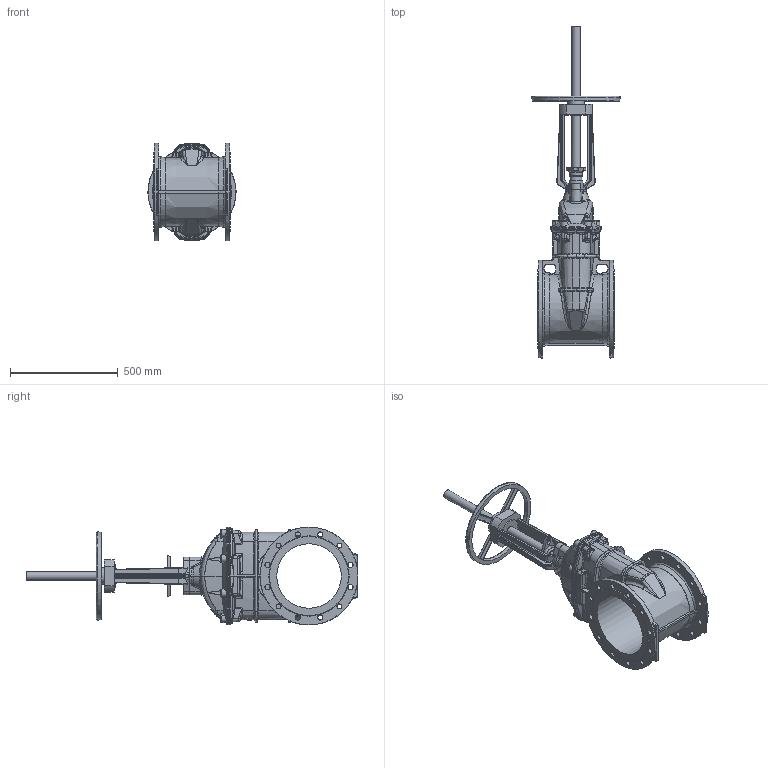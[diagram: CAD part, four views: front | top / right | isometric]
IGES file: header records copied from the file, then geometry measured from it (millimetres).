
Start section: SolidWorks IGES file using analytic representation for surfaces
Global section: file name: \\avksan2\techshare\PBM outline export from Enovia\O_21_34_DN300_40XXXXX open_AA0.igs; native system: SolidWorks 2012; preprocessor: SolidWorks 2012; author: pbm; date: 200212.103701; units: millimetre
Bounding box: 409.9 x 1542 x 455 mm (x, y, z)
Surface area: 2082587.2 mm2 (no closed solid volume)
Topology: 0 solids, 0 shells, 1132 faces, 6420 edges, 6320 vertices
Faces by surface type: bspline 634, revolution 498
